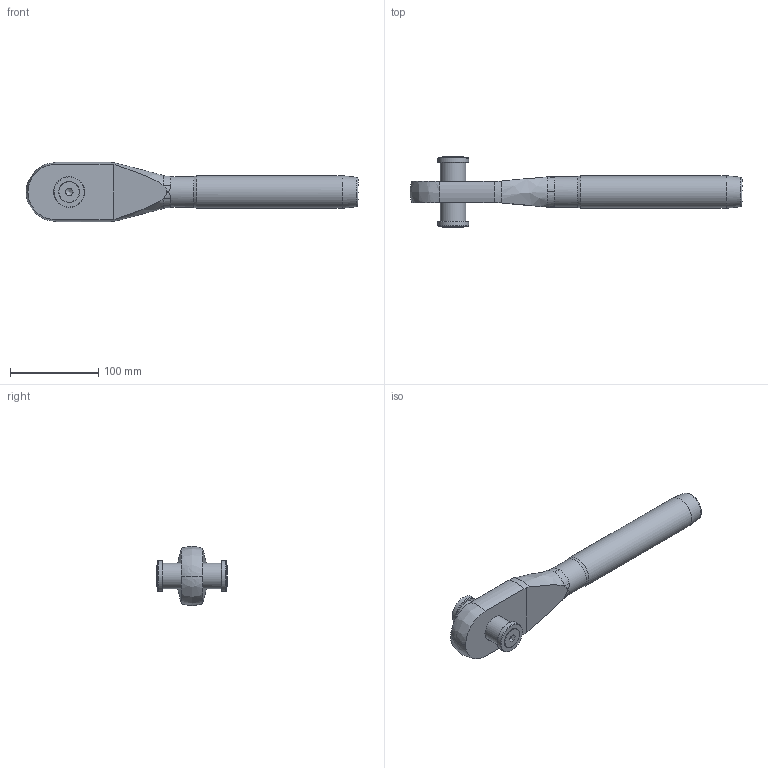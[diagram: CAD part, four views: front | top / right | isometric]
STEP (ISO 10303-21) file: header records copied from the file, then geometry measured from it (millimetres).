
FILE_DESCRIPTION(/* description */ (''),/* implementation_level */ '2;1');
FILE_NAME(/* name */ 'MCC 20_1,4418',/* time_stamp */ '2023-05-23T15:40:34+02:00',/* author */ (''),/* organization */ (''),/* preprocessor_version */ 'ST-DEVELOPER v16.5',/* originating_system */ 'Rhino 7.22',/* authorisation */ '');
FILE_SCHEMA (('CONFIG_CONTROL_DESIGN'));
Length unit declared in the file: millimetre
Products named in the file (1): Document
Bounding box: 375.5 x 79.37 x 66.93 mm (x, y, z)
Volume: 487646.2 mm3; surface area: 68983.2 mm2
Topology: 6 solids, 6 shells, 74 faces, 203 edges, 135 vertices
Faces by surface type: bspline 31, plane 27, cylinder 16
Full cylindrical faces by diameter (mm): 10.106 x2, 12 x2, 12.5 x2, 23.12 x2, 29 x1, 31 x1, 35 x3, 36.8 x1
Entity records: 3245 total; most frequent: CARTESIAN_POINT 1990, ORIENTED_EDGE 386, EDGE_CURVE 193, VERTEX_POINT 135, EDGE_LOOP 84, ADVANCED_FACE 74, FACE_OUTER_BOUND 74, B_SPLINE_CURVE_WITH_KNOTS 64
